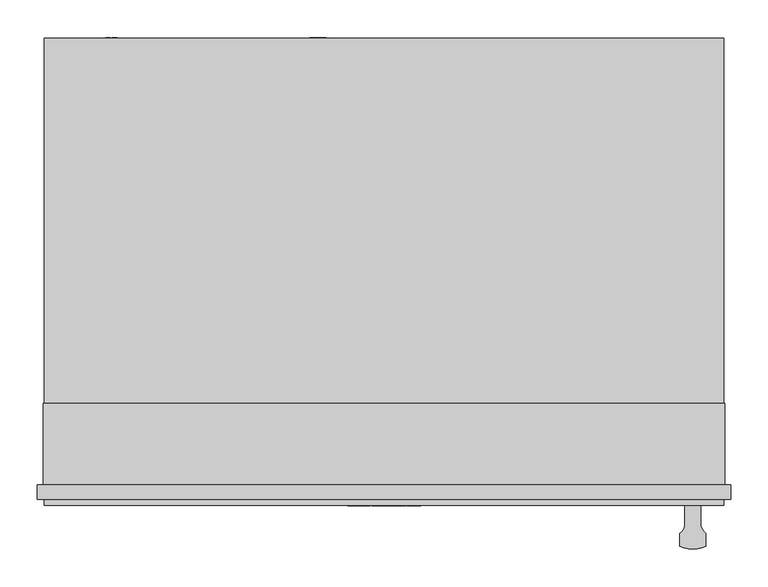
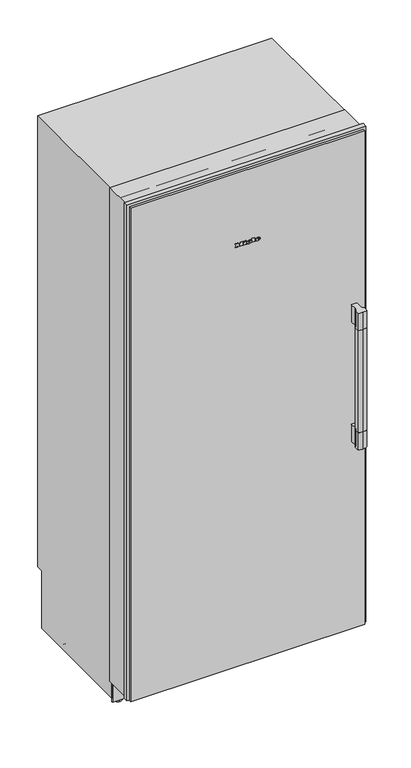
"""IFC4 building model written with IfcOpenShell, lengths in millimetres: proxy geometry, 11503410_USA_F2912SF : 37291211_USA_11503410_F2912SF."""

from ifc_helpers import new_model, si_unit, point, frame, frame_2d, origin, place, context, project, spatial, polyline, circle_curve, ellipse_curve, trimmed, segment, composite_curve, outline, extrude, faceted_brep, source, transform, mapped, element, save
from ifc_brep_helpers import plane_surface, cylinder_surface, revolved_surface, extruded_surface, advanced_brep


def specialty_equipment_59125f97(model_context):
    return source(origin(), model_context, "Body", "SolidModel", [
        extrude(outline(polyline([(-443.0, 68.0), (443.0, 68.0), (443.0, 21.0), (-443.0, 21.0), (-443.0, 68.0)])), frame((0.0, 0.0, 265.0), z_axis=(0.0, 0.0, 1.0), x_axis=(1.0, 0.0, 0.0)), (0.0, 0.0, 1.0), 1771.0),
        extrude(outline(polyline([(-289.0, 50.0), (289.0, 50.0), (289.0, 21.0), (-289.0, 21.0), (-289.0, 50.0)])), frame((0.0, 0.0, 2036.0), z_axis=(0.0, 0.0, 1.0), x_axis=(1.0, 0.0, 0.0)), (0.0, 0.0, 1.0), 56.0),
        extrude(outline(polyline([(265.0, 21.0), (265.0, 0.0), (265.0, -21.0), (224.0, -21.0), (224.0, -6.5), (99.0, -6.5), (99.0, 0.0), (99.0, 6.5), (224.0, 6.5), (224.0, 21.0), (265.0, 21.0)])), frame((0.0, 21.0, 0.0), z_axis=(0.0, 1.0, 0.0), x_axis=(0.0, 0.0, 1.0)), (0.0, 0.0, 1.0), 54.0),
        extrude(outline(composite_curve([segment(trimmed(circle_curve(frame_2d((386.9285714, -24.4390599)), 15.5714286), [point((395.5, -37.4390599))], [point((402.5, -24.4390599))], True, "CARTESIAN"), True, "CONTINUOUS"), segment(polyline([(402.5, -24.4390599), (402.5, 0.0), (423.5, 0.0), (423.5, -24.4390599)]), True, "CONTINUOUS"), segment(trimmed(circle_curve(frame_2d((439.0714286, -24.4390599)), 15.5714286), [point((423.5, -24.4390599))], [point((430.5, -37.4390599))], True, "CARTESIAN"), True, "CONTINUOUS"), segment(polyline([(430.5, -37.4390599), (430.5, -55.0)]), True, "CONTINUOUS"), segment(trimmed(circle_curve(frame_2d((413.0, -18.71875)), 40.28125), [point((430.5, -55.0))], [point((413.0, -59.0))], False, "CARTESIAN"), True, "CONTINUOUS"), segment(trimmed(circle_curve(frame_2d((413.0, -18.71875)), 40.28125), [point((413.0, -59.0))], [point((395.5, -55.0))], False, "CARTESIAN"), True, "CONTINUOUS"), segment(polyline([(395.5, -55.0), (395.5, -37.4390599)]), True, "CONTINUOUS")], self_intersect=False)), frame((0.0, 0.0, 858.0), z_axis=(0.0, 0.0, 1.0), x_axis=(1.0, 0.0, 0.0)), (0.0, 0.0, 1.0), 70.0),
        extrude(outline(composite_curve([segment(trimmed(circle_curve(frame_2d((386.9285714, -24.4390599)), 15.5714286), [point((395.5, -37.4390599))], [point((402.5, -24.4390599))], True, "CARTESIAN"), True, "CONTINUOUS"), segment(polyline([(402.5, -24.4390599), (402.5, 0.0), (423.5, 0.0), (423.5, -24.4390599)]), True, "CONTINUOUS"), segment(trimmed(circle_curve(frame_2d((439.0714286, -24.4390599)), 15.5714286), [point((423.5, -24.4390599))], [point((430.5, -37.4390599))], True, "CARTESIAN"), True, "CONTINUOUS"), segment(polyline([(430.5, -37.4390599), (430.5, -55.0)]), True, "CONTINUOUS"), segment(trimmed(circle_curve(frame_2d((413.0, -18.71875)), 40.28125), [point((430.5, -55.0))], [point((413.0, -59.0))], False, "CARTESIAN"), True, "CONTINUOUS"), segment(trimmed(circle_curve(frame_2d((413.0, -18.71875)), 40.28125), [point((413.0, -59.0))], [point((395.5, -55.0))], False, "CARTESIAN"), True, "CONTINUOUS"), segment(polyline([(395.5, -55.0), (395.5, -37.4390599)]), True, "CONTINUOUS")], self_intersect=False)), frame((0.0, 0.0, 1348.0), z_axis=(0.0, 0.0, 1.0), x_axis=(1.0, 0.0, 0.0)), (0.0, 0.0, 1.0), 70.0),
        extrude(outline(composite_curve([segment(trimmed(circle_curve(frame_2d((386.9285714, -24.4390599)), 15.5714286), [point((395.5, -37.4390599))], [point((397.3599688, -36.0))], True, "CARTESIAN"), True, "CONTINUOUS"), segment(polyline([(397.3599688, -36.0), (428.6400312, -36.0)]), True, "CONTINUOUS"), segment(trimmed(circle_curve(frame_2d((439.0714286, -24.4390599)), 15.5714286), [point((428.6400312, -36.0))], [point((430.5, -37.4390599))], True, "CARTESIAN"), True, "CONTINUOUS"), segment(polyline([(430.5, -37.4390599), (430.5, -55.0)]), True, "CONTINUOUS"), segment(trimmed(circle_curve(frame_2d((413.0, -18.71875)), 40.28125), [point((430.5, -55.0))], [point((413.0, -59.0))], False, "CARTESIAN"), True, "CONTINUOUS"), segment(trimmed(circle_curve(frame_2d((413.0, -18.71875)), 40.28125), [point((413.0, -59.0))], [point((395.5, -55.0))], False, "CARTESIAN"), True, "CONTINUOUS"), segment(polyline([(395.5, -55.0), (395.5, -37.4390599)]), True, "CONTINUOUS")], self_intersect=False)), frame((0.0, 0.0, 928.0), z_axis=(0.0, 0.0, 1.0), x_axis=(1.0, 0.0, 0.0)), (0.0, 0.0, 1.0), 420.0),
        extrude(outline(polyline([(-454.0, 21.0), (454.0, 21.0), (454.0, 0.0), (-454.0, 0.0), (-454.0, 21.0)])), frame((0.0, 0.0, 90.0), z_axis=(0.0, 0.0, 1.0), x_axis=(1.0, 0.0, 0.0)), (0.0, 0.0, 1.0), 2023.0),
        advanced_brep(
        [(38.22, -1.0, 1812.792), (38.22, -1.0, 1814.408), (48.924, -1.0, 1814.408), (30.3, -1.0, 1814.408), (34.7, -1.0, 1809.0), (48.652, -1.0, 1812.792), (43.82, -1.0, 1812.792), (40.012, -1.0, 1811.0), (38.22, -1.0, 1816.456), (38.22, -1.0, 1818.2), (40.956, -1.0, 1818.2), (40.956, -1.0, 1816.456), (38.22, 0.0, 1812.792), (40.012, 0.0, 1811.0), (43.82, 0.0, 1812.792), (48.652, 0.0, 1812.792), (34.7, 0.0, 1809.0), (30.3, 0.0, 1814.408), (48.924, 0.0, 1814.408), (38.22, 0.0, 1814.408), (38.22, 0.0, 1816.456), (40.956, 0.0, 1816.456), (40.956, 0.0, 1818.2), (38.22, 0.0, 1818.2)],
        [
            (0, 1),
            (1, 2),
            (2, 3, ellipse_curve(frame((39.612, -1.0, 1814.408), z_axis=(0.0, -1.0, 0.0), x_axis=(-1.0, 0.0, 0.0)), 9.312, 7.696)),
            (3, 4, circle_curve(frame((36.4920873, -1.0, 1814.952), z_axis=(0.0, -1.0, 0.0), x_axis=(0.0, 0.0, -1.0)), 6.2159376)),
            (4, 5, circle_curve(frame((39.4255872, -1.0, 1819.176), z_axis=(0.0, -1.0, 0.0), x_axis=(0.0, 0.0, -1.0)), 11.2197215)),
            (5, 6),
            (6, 7, circle_curve(frame((40.7941176, -1.0, 1814.28), z_axis=(0.0, 1.0, 0.0), x_axis=(0.0, 0.0, -1.0)), 3.3719591)),
            (7, 0, circle_curve(frame((40.012, -1.0, 1812.792), z_axis=(0.0, 1.0, 0.0), x_axis=(0.0, 0.0, -1.0)), 1.792)),
            (8, 9),
            (9, 10, circle_curve(frame((39.588, -1.0, 1818.2), z_axis=(0.0, 1.0, 0.0), x_axis=(0.0, 0.0, -1.0)), 1.368)),
            (10, 11),
            (11, 8),
            (12, 13, circle_curve(frame((40.012, 0.0, 1812.792), z_axis=(0.0, -1.0, 0.0), x_axis=(0.0, 0.0, -1.0)), 1.792)),
            (13, 14, circle_curve(frame((40.7941176, 0.0, 1814.28), z_axis=(0.0, -1.0, 0.0), x_axis=(0.0, 0.0, -1.0)), 3.3719591)),
            (14, 15),
            (15, 16, circle_curve(frame((39.4255872, 0.0, 1819.176), z_axis=(0.0, 1.0, 0.0), x_axis=(0.0, 0.0, -1.0)), 11.2197215)),
            (16, 17, circle_curve(frame((36.4920873, 0.0, 1814.952), z_axis=(0.0, 1.0, 0.0), x_axis=(0.0, 0.0, -1.0)), 6.2159376)),
            (17, 18, ellipse_curve(frame((39.612, 0.0, 1814.408), z_axis=(0.0, 1.0, 0.0), x_axis=(-1.0, 0.0, 0.0)), 9.312, 7.696)),
            (18, 19),
            (19, 12),
            (20, 21),
            (21, 22),
            (22, 23, circle_curve(frame((39.588, 0.0, 1818.2), z_axis=(0.0, -1.0, 0.0), x_axis=(0.0, 0.0, -1.0)), 1.368)),
            (23, 20),
            (0, 12),
            (19, 1),
            (18, 2),
            (5, 15),
            (14, 6),
            (17, 3),
            (13, 7),
            (16, 4),
            (8, 20),
            (23, 9),
            (22, 10),
            (21, 11),
        ],
        [
            plane_surface(frame((38.22, -1.0, 1814.408), z_axis=(0.0, -1.0, 0.0), x_axis=(0.0, 0.0, 1.0))),
            plane_surface(frame((38.22, 0.0, 1814.408), z_axis=(0.0, 1.0, 0.0), x_axis=(0.0, 0.0, -1.0))),
            plane_surface(frame((38.22, -1.0, 1812.792), z_axis=(1.0, 0.0, 0.0), x_axis=(0.0, 1.0, 0.0))),
            plane_surface(frame((38.22, -1.0, 1814.408), z_axis=(0.0, 0.0, -1.0), x_axis=(0.0, 1.0, 0.0))),
            plane_surface(frame((48.652, -1.0, 1812.792), z_axis=(0.0, 0.0, 1.0), x_axis=(0.0, 1.0, 0.0))),
            extruded_surface(trimmed(ellipse_curve(frame((39.612, 1.0, 1814.408), z_axis=(0.0, -1.0, 0.0), x_axis=(-1.0, 0.0, 0.0)), 9.312, 7.696), [point((48.924, 1.0, 1814.408))], [point((30.3, 1.0, 1814.408))], True, "CARTESIAN"), (0.0, -1.0, 0.0), 1.0),
            revolved_surface(polyline([(40.7941176, 0.0, 1810.9080409), (40.7941176, -1.0, 1810.9080409)]), (40.7941176, 0.0, 1814.28), (0.0, 1.0, 0.0)),
            revolved_surface(polyline([(40.012, 0.0, 1811.0), (40.012, -1.0, 1811.0)]), (40.012, 0.0, 1812.792), (0.0, 1.0, 0.0)),
            cylinder_surface(frame((36.4920873, 0.0, 1814.952), z_axis=(0.0, -1.0, 0.0), x_axis=(0.0, 0.0, -1.0)), 6.2159376),
            cylinder_surface(frame((39.4255872, 0.0, 1819.176), z_axis=(0.0, -1.0, 0.0), x_axis=(0.0, 0.0, -1.0)), 11.2197215),
            plane_surface(frame((38.22, -1.0, 1816.456), z_axis=(1.0, 0.0, 0.0), x_axis=(0.0, 1.0, 0.0))),
            revolved_surface(polyline([(39.588, 0.0, 1816.832), (39.588, -1.0, 1816.832)]), (39.588, 0.0, 1818.2), (0.0, 1.0, 0.0)),
            plane_surface(frame((40.956, -1.0, 1818.2), z_axis=(-1.0, 0.0, 0.0), x_axis=(0.0, 1.0, 0.0))),
            plane_surface(frame((40.956, -1.0, 1816.456), z_axis=(0.0, 0.0, 1.0), x_axis=(0.0, 1.0, 0.0))),
        ],
        [
            (0, [[1, 2, 3, 4, 5, 6, 7, 8], [9, 10, 11, 12]]),
            (1, [[13, 14, 15, 16, 17, 18, 19, 20], [21, 22, 23, 24]]),
            (2, [[-1, 25, -20, 26]]),
            (3, [[-2, -26, -19, 27]]),
            (4, [[-6, 28, -15, 29]]),
            (5, [[-3, -27, -18, 30]]),
            (6, [[-7, -29, -14, 31]]),
            (7, [[-8, -31, -13, -25]]),
            (8, [[-4, -30, -17, 32]]),
            (9, [[-5, -32, -16, -28]]),
            (10, [[-9, 33, -24, 34]]),
            (11, [[-10, -34, -23, 35]]),
            (12, [[-11, -35, -22, 36]]),
            (13, [[-12, -36, -21, -33]]),
        ],
    ),
        advanced_brep(
        [(4.828, -1.0, 1812.792), (4.828, -1.0, 1814.408), (15.532, -1.0, 1814.408), (-3.092, -1.0, 1814.408), (1.308, -1.0, 1809.0), (15.26, -1.0, 1812.792), (10.428, -1.0, 1812.792), (6.62, -1.0, 1811.0), (4.828, -1.0, 1816.456), (4.828, -1.0, 1818.2), (7.564, -1.0, 1818.2), (7.564, -1.0, 1816.456), (4.828, 0.0, 1812.792), (6.62, 0.0, 1811.0), (10.428, 0.0, 1812.792), (15.26, 0.0, 1812.792), (1.308, 0.0, 1809.0), (-3.092, 0.0, 1814.408), (15.532, 0.0, 1814.408), (4.828, 0.0, 1814.408), (4.828, 0.0, 1816.456), (7.564, 0.0, 1816.456), (7.564, 0.0, 1818.2), (4.828, 0.0, 1818.2)],
        [
            (0, 1),
            (1, 2),
            (2, 3, ellipse_curve(frame((6.22, -1.0, 1814.408), z_axis=(0.0, -1.0, 0.0), x_axis=(-1.0, 0.0, 0.0)), 9.312, 7.696)),
            (3, 4, circle_curve(frame((3.1000873, -1.0, 1814.952), z_axis=(0.0, -1.0, 0.0), x_axis=(0.0, 0.0, -1.0)), 6.2159376)),
            (4, 5, circle_curve(frame((6.0335872, -1.0, 1819.176), z_axis=(0.0, -1.0, 0.0), x_axis=(0.0, 0.0, -1.0)), 11.2197215)),
            (5, 6),
            (6, 7, circle_curve(frame((7.4021176, -1.0, 1814.28), z_axis=(0.0, 1.0, 0.0), x_axis=(0.0, 0.0, -1.0)), 3.3719591)),
            (7, 0, circle_curve(frame((6.62, -1.0, 1812.792), z_axis=(0.0, 1.0, 0.0), x_axis=(0.0, 0.0, -1.0)), 1.792)),
            (8, 9),
            (9, 10, circle_curve(frame((6.196, -1.0, 1818.2), z_axis=(0.0, 1.0, 0.0), x_axis=(0.0, 0.0, -1.0)), 1.368)),
            (10, 11),
            (11, 8),
            (12, 13, circle_curve(frame((6.62, 0.0, 1812.792), z_axis=(0.0, -1.0, 0.0), x_axis=(0.0, 0.0, -1.0)), 1.792)),
            (13, 14, circle_curve(frame((7.4021176, 0.0, 1814.28), z_axis=(0.0, -1.0, 0.0), x_axis=(0.0, 0.0, -1.0)), 3.3719591)),
            (14, 15),
            (15, 16, circle_curve(frame((6.0335872, 0.0, 1819.176), z_axis=(0.0, 1.0, 0.0), x_axis=(0.0, 0.0, -1.0)), 11.2197215)),
            (16, 17, circle_curve(frame((3.1000873, 0.0, 1814.952), z_axis=(0.0, 1.0, 0.0), x_axis=(0.0, 0.0, -1.0)), 6.2159376)),
            (17, 18, ellipse_curve(frame((6.22, 0.0, 1814.408), z_axis=(0.0, 1.0, 0.0), x_axis=(-1.0, 0.0, 0.0)), 9.312, 7.696)),
            (18, 19),
            (19, 12),
            (20, 21),
            (21, 22),
            (22, 23, circle_curve(frame((6.196, 0.0, 1818.2), z_axis=(0.0, -1.0, 0.0), x_axis=(0.0, 0.0, -1.0)), 1.368)),
            (23, 20),
            (0, 12),
            (19, 1),
            (18, 2),
            (5, 15),
            (14, 6),
            (17, 3),
            (13, 7),
            (16, 4),
            (8, 20),
            (23, 9),
            (22, 10),
            (21, 11),
        ],
        [
            plane_surface(frame((4.828, -1.0, 1814.408), z_axis=(0.0, -1.0, 0.0), x_axis=(0.0, 0.0, 1.0))),
            plane_surface(frame((4.828, 0.0, 1814.408), z_axis=(0.0, 1.0, 0.0), x_axis=(0.0, 0.0, -1.0))),
            plane_surface(frame((4.828, -1.0, 1812.792), z_axis=(1.0, 0.0, 0.0), x_axis=(0.0, 1.0, 0.0))),
            plane_surface(frame((4.828, -1.0, 1814.408), z_axis=(0.0, 0.0, -1.0), x_axis=(0.0, 1.0, 0.0))),
            plane_surface(frame((15.26, -1.0, 1812.792), z_axis=(0.0, 0.0, 1.0), x_axis=(0.0, 1.0, 0.0))),
            extruded_surface(trimmed(ellipse_curve(frame((6.22, 1.0, 1814.408), z_axis=(0.0, -1.0, 0.0), x_axis=(-1.0, 0.0, 0.0)), 9.312, 7.696), [point((15.532, 1.0, 1814.408))], [point((-3.092, 1.0, 1814.408))], True, "CARTESIAN"), (0.0, -1.0, 0.0), 1.0),
            revolved_surface(polyline([(7.4021176, 0.0, 1810.9080409), (7.4021176, -1.0, 1810.9080409)]), (7.4021176, 0.0, 1814.28), (0.0, 1.0, 0.0)),
            revolved_surface(polyline([(6.62, 0.0, 1811.0), (6.62, -1.0, 1811.0)]), (6.62, 0.0, 1812.792), (0.0, 1.0, 0.0)),
            cylinder_surface(frame((3.1000873, 0.0, 1814.952), z_axis=(0.0, -1.0, 0.0), x_axis=(0.0, 0.0, -1.0)), 6.2159376),
            cylinder_surface(frame((6.0335872, 0.0, 1819.176), z_axis=(0.0, -1.0, 0.0), x_axis=(0.0, 0.0, -1.0)), 11.2197215),
            plane_surface(frame((4.828, -1.0, 1816.456), z_axis=(1.0, 0.0, 0.0), x_axis=(0.0, 1.0, 0.0))),
            revolved_surface(polyline([(6.196, 0.0, 1816.832), (6.196, -1.0, 1816.832)]), (6.196, 0.0, 1818.2), (0.0, 1.0, 0.0)),
            plane_surface(frame((7.564, -1.0, 1818.2), z_axis=(-1.0, 0.0, 0.0), x_axis=(0.0, 1.0, 0.0))),
            plane_surface(frame((7.564, -1.0, 1816.456), z_axis=(0.0, 0.0, 1.0), x_axis=(0.0, 1.0, 0.0))),
        ],
        [
            (0, [[1, 2, 3, 4, 5, 6, 7, 8], [9, 10, 11, 12]]),
            (1, [[13, 14, 15, 16, 17, 18, 19, 20], [21, 22, 23, 24]]),
            (2, [[-1, 25, -20, 26]]),
            (3, [[-2, -26, -19, 27]]),
            (4, [[-6, 28, -15, 29]]),
            (5, [[-3, -27, -18, 30]]),
            (6, [[-7, -29, -14, 31]]),
            (7, [[-8, -31, -13, -25]]),
            (8, [[-4, -30, -17, 32]]),
            (9, [[-5, -32, -16, -28]]),
            (10, [[-9, 33, -24, 34]]),
            (11, [[-10, -34, -23, 35]]),
            (12, [[-11, -35, -22, 36]]),
            (13, [[-12, -36, -21, -33]]),
        ],
    ),
        extrude(outline(polyline([(1824.056, -12.66), (1821.464, -11.444), (1823.992, -6.02), (1826.584, -7.22), (1824.056, -12.66)])), frame((0.0, -1.0, 0.0), z_axis=(0.0, 1.0, 0.0), x_axis=(0.0, 0.0, 1.0)), (0.0, 0.0, 1.0), 1.0),
        extrude(outline(polyline([(1821.112, -16.612), (1818.248, -16.612), (1818.248, -14.708), (1811.688, -14.708), (1811.688, -16.612), (1809.0, -16.612), (1809.0, -3.988), (1811.688, -3.988), (1811.688, -5.844), (1821.112, -5.844), (1821.112, -16.612)])), frame((0.0, -1.0, 0.0), z_axis=(0.0, 1.0, 0.0), x_axis=(0.0, 0.0, 1.0)), (0.0, 0.0, 1.0), 1.0),
        extrude(outline(polyline([(1822.392, 16.428), (1822.392, 18.348), (1811.688, 18.348), (1811.688, 16.428), (1809.0, 16.428), (1809.0, 29.404), (1811.688, 29.404), (1811.688, 27.436), (1825.0, 27.436), (1825.0, 16.428), (1822.392, 16.428)])), frame((0.0, -1.0, 0.0), z_axis=(0.0, 1.0, 0.0), x_axis=(0.0, 0.0, 1.0)), (0.0, 0.0, 1.0), 1.0),
        extrude(outline(polyline([(1822.392, -48.5), (1822.392, -46.564), (1811.688, -46.564), (1811.688, -48.5), (1809.0, -48.5), (1809.0, -41.46), (1811.688, -41.46), (1811.688, -43.38), (1818.4431247, -43.38), (1809.0, -36.228), (1818.8152223, -29.044), (1811.688, -29.044), (1811.688, -31.012), (1809.0, -31.012), (1809.0, -18.244), (1811.688, -18.244), (1811.688, -20.276), (1822.392, -20.276), (1822.392, -18.244), (1825.0, -18.244), (1825.0, -27.988), (1819.0, -32.66), (1825.0, -37.348), (1825.0, -48.5), (1822.392, -48.5)])), frame((0.0, -1.0, 0.0), z_axis=(0.0, 1.0, 0.0), x_axis=(0.0, 0.0, 1.0)), (0.0, 0.0, 1.0), 1.0),
        extrude(outline(polyline([(540.0, 1998.0), (540.0, 1791.0), (471.0, 1791.0), (443.0, 1867.0), (222.7448904, 1867.0), (178.0, 1939.0), (108.0, 1949.0), (108.0, 1998.0), (540.0, 1998.0)])), frame((-408.0, 0.0, 0.0), z_axis=(1.0, 0.0, 0.0), x_axis=(0.0, 1.0, 0.0)), (0.0, 0.0, 1.0), 816.0),
        extrude(outline(polyline([(217.9886114, 1875.0), (216.809433, 1875.0), (179.6921935, 1934.4), (180.8713719, 1934.4), (217.9886114, 1875.0)])), frame((-69.0, 0.0, 0.0), z_axis=(1.0, 0.0, 0.0), x_axis=(0.0, 1.0, 0.0)), (0.0, 0.0, 1.0), 138.0),
        extrude(outline(polyline([(46.0510837, -87.101717), (37.4134902, -89.1745179), (46.0453554, -91.6868463), (46.0453554, -93.5601414), (37.4089549, -96.0799633), (46.0493903, -98.1581876), (46.0493903, -99.4649805), (36.0005458, -96.7156324), (36.0005458, -95.372208), (44.8261022, -92.6342221), (35.9987467, -90.0620509), (35.9987287, -88.5451466), (46.0510837, -85.800191), (46.0510837, -87.101717)])), frame((0.0, 625.0, 0.0), z_axis=(0.0, 1.0, 0.0), x_axis=(0.0, 0.0, 1.0)), (0.0, 0.0, 1.0), 1.0),
        extrude(outline(polyline([(46.0485238, -78.7401503), (41.1363122, -78.7401503), (46.0468162, -83.884602), (46.0468162, -85.6328316), (41.9156889, -81.3260313), (36.000035, -85.8032231), (36.000035, -84.2795519), (41.0742849, -80.4391666), (39.4525334, -78.7395503), (35.9999292, -78.7395503), (35.9999292, -77.4795491), (46.0485238, -77.4795491), (46.0485238, -78.7401503)])), frame((0.0, 625.0, 0.0), z_axis=(0.0, 1.0, 0.0), x_axis=(0.0, 0.0, 1.0)), (0.0, 0.0, 1.0), 1.0),
        extrude(outline(composite_curve([segment(trimmed(circle_curve(frame_2d((41.0, -88.0)), 7.5), [point((33.5, -88.0))], [point((48.5, -88.0))], False, "CARTESIAN"), True, "CONTINUOUS"), segment(trimmed(circle_curve(frame_2d((41.0, -88.0)), 7.5), [point((48.5, -88.0))], [point((33.5, -88.0))], False, "CARTESIAN"), True, "CONTINUOUS")], self_intersect=False)), frame((0.0, 598.0, 0.0), z_axis=(0.0, 1.0, 0.0), x_axis=(0.0, 0.0, 1.0)), (0.0, 0.0, 1.0), 27.0),
        extrude(outline(polyline([(2095.0, -447.5), (2047.0, -447.5), (2047.0, -413.5), (2036.5, -413.5), (2036.5, -298.5), (2047.0, -298.5), (2047.0, -292.5), (2095.0, -292.5), (2095.0, -447.5)])), frame((0.0, 21.0, 0.0), z_axis=(0.0, 1.0, 0.0), x_axis=(0.0, 0.0, 1.0)), (0.0, 0.0, 1.0), 47.0),
        extrude(outline(polyline([(254.0, -447.5), (206.0, -447.5), (206.0, -292.5), (254.0, -292.5), (254.0, -298.5), (264.0, -298.5), (264.0, -413.5), (254.0, -413.5), (254.0, -447.5)])), frame((0.0, 21.0, 0.0), z_axis=(0.0, 1.0, 0.0), x_axis=(0.0, 0.0, 1.0)), (0.0, 0.0, 1.0), 54.0),
        extrude(outline(polyline([(99.0373308, -363.7645771), (97.7615342, -363.7645771), (97.7615342, -357.8195541), (94.7968516, -357.8195541), (94.7968516, -363.469579), (93.5246295, -363.469579), (93.5246295, -357.8415693), (90.2570046, -357.8415693), (90.2570046, -363.9619689), (88.9546219, -363.9619689), (88.9546219, -356.5443524), (99.0373308, -356.5443524), (99.0373308, -363.7645771)])), frame((0.0, 625.0, 0.0), z_axis=(0.0, 1.0, 0.0), x_axis=(0.0, 0.0, 1.0)), (0.0, 0.0, 1.0), 1.0),
        extrude(outline(polyline([(99.0458, -367.0619704), (90.2663944, -367.0619704), (90.2663944, -372.1145879), (89.0134802, -372.1145879), (89.0134802, -365.8423809), (99.0458, -365.8423809), (99.0458, -367.0619704)])), frame((0.0, 625.0, 0.0), z_axis=(0.0, 1.0, 0.0), x_axis=(0.0, 0.0, 1.0)), (0.0, 0.0, 1.0), 1.0),
        extrude(outline(composite_curve([segment(trimmed(circle_curve(frame_2d((94.0, -364.0)), 7.5), [point((86.5, -364.0))], [point((101.5, -364.0))], False, "CARTESIAN"), True, "CONTINUOUS"), segment(trimmed(circle_curve(frame_2d((94.0, -364.0)), 7.5), [point((101.5, -364.0))], [point((86.5, -364.0))], False, "CARTESIAN"), True, "CONTINUOUS")], self_intersect=False)), frame((0.0, 598.0, 0.0), z_axis=(0.0, 1.0, 0.0), x_axis=(0.0, 0.0, 1.0)), (0.0, 0.0, 1.0), 27.0),
        extrude(outline(polyline([(-454.0, 125.0), (454.0, 125.0), (454.0, 120.0), (-454.0, 120.0), (-454.0, 125.0)])), frame((0.0, 0.0, 14.0), z_axis=(0.0, 0.0, 1.0), x_axis=(1.0, 0.0, 0.0)), (0.0, 0.0, 1.0), 83.0),
        advanced_brep(
        [(-420.0, 160.0, 0.0), (-420.0, 130.0, 0.0), (-420.0, 160.0, 7.0), (-420.0, 130.0, 7.0), (-420.0, 149.7, 7.0), (-420.0, 140.3, 7.0), (-420.0, 149.7, 28.0), (-420.0, 140.3, 28.0)],
        [
            (0, 1, circle_curve(frame((-420.0, 145.0, 0.0), z_axis=(0.0, 0.0, -1.0), x_axis=(1.0, 0.0, 0.0)), 15.0)),
            (1, 0, circle_curve(frame((-420.0, 145.0, 0.0), z_axis=(0.0, 0.0, -1.0), x_axis=(1.0, 0.0, 0.0)), 15.0)),
            (2, 3, circle_curve(frame((-420.0, 145.0, 7.0), z_axis=(0.0, 0.0, 1.0), x_axis=(1.0, 0.0, 0.0)), 15.0)),
            (3, 2, circle_curve(frame((-420.0, 145.0, 7.0), z_axis=(0.0, 0.0, 1.0), x_axis=(1.0, 0.0, 0.0)), 15.0)),
            (4, 5, circle_curve(frame((-420.0, 145.0, 7.0), z_axis=(0.0, 0.0, -1.0), x_axis=(0.0, -1.0, 0.0)), 4.7)),
            (5, 4, circle_curve(frame((-420.0, 145.0, 7.0), z_axis=(0.0, 0.0, -1.0), x_axis=(0.0, -1.0, 0.0)), 4.7)),
            (0, 2),
            (3, 1),
            (6, 7, circle_curve(frame((-420.0, 145.0, 28.0), z_axis=(0.0, 0.0, 1.0), x_axis=(0.0, -1.0, 0.0)), 4.7)),
            (7, 6, circle_curve(frame((-420.0, 145.0, 28.0), z_axis=(0.0, 0.0, 1.0), x_axis=(0.0, -1.0, 0.0)), 4.7)),
            (7, 5),
            (4, 6),
        ],
        [
            plane_surface(frame((-405.0, 145.0, 0.0), z_axis=(0.0, 0.0, -1.0), x_axis=(0.0, -1.0, 0.0))),
            plane_surface(frame((-405.0, 145.0, 7.0), z_axis=(0.0, 0.0, 1.0), x_axis=(0.0, 1.0, 0.0))),
            cylinder_surface(frame((-420.0, 145.0, 7.0), z_axis=(0.0, 0.0, -1.0), x_axis=(1.0, 0.0, 0.0)), 15.0),
            plane_surface(frame((-420.0, 140.3, 28.0), z_axis=(0.0, 0.0, 1.0), x_axis=(1.0, 0.0, 0.0))),
            cylinder_surface(frame((-420.0, 145.0, 28.0), z_axis=(0.0, 0.0, -1.0), x_axis=(0.0, -1.0, 0.0)), 4.7),
        ],
        [
            (0, [[1, 2]]),
            (1, [[3, 4], [5, 6]]),
            (2, [[-1, 7, -4, 8]]),
            (2, [[-2, -8, -3, -7]]),
            (3, [[9, 10]]),
            (4, [[-10, 11, -5, 12]]),
            (4, [[-9, -12, -6, -11]]),
        ],
    ),
        advanced_brep(
        [(420.0, 160.0, 0.0), (420.0, 130.0, 0.0), (420.0, 160.0, 7.0), (420.0, 130.0, 7.0), (420.0, 149.7, 7.0), (420.0, 140.3, 7.0), (420.0, 149.7, 28.0), (420.0, 140.3, 28.0)],
        [
            (0, 1, circle_curve(frame((420.0, 145.0, 0.0), z_axis=(0.0, 0.0, -1.0), x_axis=(1.0, 0.0, 0.0)), 15.0)),
            (1, 0, circle_curve(frame((420.0, 145.0, 0.0), z_axis=(0.0, 0.0, -1.0), x_axis=(1.0, 0.0, 0.0)), 15.0)),
            (2, 3, circle_curve(frame((420.0, 145.0, 7.0), z_axis=(0.0, 0.0, 1.0), x_axis=(1.0, 0.0, 0.0)), 15.0)),
            (3, 2, circle_curve(frame((420.0, 145.0, 7.0), z_axis=(0.0, 0.0, 1.0), x_axis=(1.0, 0.0, 0.0)), 15.0)),
            (4, 5, circle_curve(frame((420.0, 145.0, 7.0), z_axis=(0.0, 0.0, -1.0), x_axis=(0.0, -1.0, 0.0)), 4.7)),
            (5, 4, circle_curve(frame((420.0, 145.0, 7.0), z_axis=(0.0, 0.0, -1.0), x_axis=(0.0, -1.0, 0.0)), 4.7)),
            (0, 2),
            (3, 1),
            (6, 7, circle_curve(frame((420.0, 145.0, 28.0), z_axis=(0.0, 0.0, 1.0), x_axis=(0.0, -1.0, 0.0)), 4.7)),
            (7, 6, circle_curve(frame((420.0, 145.0, 28.0), z_axis=(0.0, 0.0, 1.0), x_axis=(0.0, -1.0, 0.0)), 4.7)),
            (7, 5),
            (4, 6),
        ],
        [
            plane_surface(frame((-405.0, 145.0, 0.0), z_axis=(0.0, 0.0, -1.0), x_axis=(0.0, -1.0, 0.0))),
            plane_surface(frame((-405.0, 145.0, 7.0), z_axis=(0.0, 0.0, 1.0), x_axis=(0.0, 1.0, 0.0))),
            cylinder_surface(frame((420.0, 145.0, 7.0), z_axis=(0.0, 0.0, -1.0), x_axis=(1.0, 0.0, 0.0)), 15.0),
            plane_surface(frame((-420.0, 140.3, 28.0), z_axis=(0.0, 0.0, 1.0), x_axis=(1.0, 0.0, 0.0))),
            cylinder_surface(frame((420.0, 145.0, 28.0), z_axis=(0.0, 0.0, -1.0), x_axis=(0.0, -1.0, 0.0)), 4.7),
        ],
        [
            (0, [[1, 2]]),
            (1, [[3, 4], [5, 6]]),
            (2, [[-1, 7, -4, 8]]),
            (2, [[-2, -8, -3, -7]]),
            (3, [[9, 10]]),
            (4, [[-10, 11, -5, 12]]),
            (4, [[-9, -12, -6, -11]]),
        ],
    ),
        advanced_brep(
        [(454.0, 68.0, 2114.0), (454.0, 68.0, 267.0), (454.0, 75.0, 267.0), (454.0, 75.0, 97.0), (454.0, 125.0, 97.0), (454.0, 125.0, 28.0), (454.0, 598.0, 28.0), (454.0, 598.0, 263.0), (454.0, 625.0, 263.0), (454.0, 625.0, 2114.0), (-454.0, 68.0, 2114.0), (-454.0, 625.0, 2114.0), (-454.0, 625.0, 263.0), (-454.0, 598.0, 263.0), (-454.0, 598.0, 28.0), (-454.0, 125.0, 28.0), (-454.0, 125.0, 97.0), (-454.0, 75.0, 97.0), (-454.0, 75.0, 267.0), (-454.0, 68.0, 267.0), (394.0, 598.0, 28.0), (394.0, 598.0, 14.0), (-394.0, 598.0, 14.0), (-394.0, 598.0, 28.0), (394.0, 125.0, 14.0), (-394.0, 125.0, 14.0), (-394.0, 125.0, 28.0), (394.0, 125.0, 28.0), (408.0, 68.0, 1998.0), (408.0, 68.0, 343.0), (-408.0, 68.0, 343.0), (-408.0, 68.0, 1998.0), (408.0, 540.0, 1998.0), (-408.0, 540.0, 1998.0), (-408.0, 540.0, 343.0), (408.0, 540.0, 343.0), (-412.5, 223.8193473, 28.0), (-431.5, 223.8193473, 28.0), (-431.5, 174.1806527, 28.0), (-412.5, 174.1806527, 28.0), (-432.0, 546.8193473, 28.0), (-432.0, 497.1806527, 28.0), (-416.0, 497.1806527, 28.0), (-416.0, 546.8193473, 28.0), (431.5, 174.1806527, 28.0), (431.5, 223.8193473, 28.0), (412.5, 223.8193473, 28.0), (412.5, 174.1806527, 28.0), (416.0, 546.8193473, 28.0), (416.0, 497.1806527, 28.0), (432.0, 497.1806527, 28.0), (432.0, 546.8193473, 28.0), (-412.5, 224.0, 25.0), (-412.5, 174.0, 25.0), (-431.5, 174.0, 25.0), (-431.5, 224.0, 25.0), (-412.5, 199.0, 25.0), (-431.5, 199.0, 25.0), (431.5, 199.0, 25.0), (431.5, 174.0, 25.0), (431.5, 224.0, 25.0), (412.5, 224.0, 25.0), (412.5, 174.0, 25.0), (412.5, 199.0, 25.0), (-432.0, 547.0, 25.0), (-432.0, 497.0, 25.0), (-432.0, 522.0, 25.0), (-416.0, 547.0, 25.0), (-416.0, 497.0, 25.0), (-416.0, 522.0, 25.0), (416.0, 547.0, 25.0), (416.0, 497.0, 25.0), (416.0, 522.0, 25.0), (432.0, 547.0, 25.0), (432.0, 497.0, 25.0), (432.0, 522.0, 25.0)],
        [
            (0, 1),
            (1, 2),
            (2, 3),
            (3, 4),
            (4, 5),
            (5, 6),
            (6, 7),
            (7, 8),
            (8, 9),
            (9, 0),
            (10, 11),
            (11, 12),
            (12, 13),
            (13, 14),
            (14, 15),
            (15, 16),
            (16, 17),
            (17, 18),
            (18, 19),
            (19, 10),
            (9, 11),
            (10, 0),
            (8, 12),
            (7, 13),
            (6, 20),
            (20, 21),
            (21, 22),
            (22, 23),
            (23, 14),
            (21, 24),
            (24, 25),
            (25, 22),
            (4, 16),
            (15, 26),
            (26, 25),
            (24, 27),
            (27, 5),
            (3, 17),
            (2, 18),
            (1, 19),
            (28, 29),
            (29, 30),
            (30, 31),
            (31, 28),
            (32, 33),
            (33, 34),
            (34, 35),
            (35, 32),
            (35, 29),
            (28, 32),
            (34, 30),
            (33, 31),
            (23, 26),
            (36, 37),
            (37, 38),
            (38, 39),
            (39, 36),
            (40, 41),
            (41, 42),
            (42, 43),
            (43, 40),
            (27, 20),
            (44, 45),
            (45, 46),
            (46, 47),
            (47, 44),
            (48, 49),
            (49, 50),
            (50, 51),
            (51, 48),
            (52, 53, circle_curve(frame((-412.5, 199.0, 25.0), z_axis=(-1.0, 0.0, 0.0), x_axis=(0.0, -1.0, 0.0)), 25.0)),
            (53, 54),
            (54, 55, circle_curve(frame((-431.5, 199.0, 25.0), z_axis=(1.0, 0.0, 0.0), x_axis=(0.0, -1.0, 0.0)), 25.0)),
            (55, 52),
            (53, 39, circle_curve(frame((-412.5, 199.0, 25.0), z_axis=(-1.0, 0.0, 0.0), x_axis=(0.0, -1.0, 0.0)), 25.0)),
            (38, 54, circle_curve(frame((-431.5, 199.0, 25.0), z_axis=(1.0, 0.0, 0.0), x_axis=(0.0, -1.0, 0.0)), 25.0)),
            (55, 37, circle_curve(frame((-431.5, 199.0, 25.0), z_axis=(1.0, 0.0, 0.0), x_axis=(0.0, -1.0, 0.0)), 25.0)),
            (36, 52, circle_curve(frame((-412.5, 199.0, 25.0), z_axis=(-1.0, 0.0, 0.0), x_axis=(0.0, -1.0, 0.0)), 25.0)),
            (52, 56),
            (56, 53),
            (54, 57),
            (57, 55),
            (58, 59),
            (59, 60, circle_curve(frame((431.5, 199.0, 25.0), z_axis=(1.0, 0.0, 0.0), x_axis=(0.0, -1.0, 0.0)), 25.0)),
            (60, 58),
            (60, 45, circle_curve(frame((431.5, 199.0, 25.0), z_axis=(1.0, 0.0, 0.0), x_axis=(0.0, -1.0, 0.0)), 25.0)),
            (44, 59, circle_curve(frame((431.5, 199.0, 25.0), z_axis=(1.0, 0.0, 0.0), x_axis=(0.0, -1.0, 0.0)), 25.0)),
            (61, 62, circle_curve(frame((412.5, 199.0, 25.0), z_axis=(-1.0, 0.0, 0.0), x_axis=(0.0, -1.0, 0.0)), 25.0)),
            (62, 63),
            (63, 61),
            (62, 47, circle_curve(frame((412.5, 199.0, 25.0), z_axis=(-1.0, 0.0, 0.0), x_axis=(0.0, -1.0, 0.0)), 25.0)),
            (46, 61, circle_curve(frame((412.5, 199.0, 25.0), z_axis=(-1.0, 0.0, 0.0), x_axis=(0.0, -1.0, 0.0)), 25.0)),
            (64, 65, circle_curve(frame((-432.0, 522.0, 25.0), z_axis=(-1.0, 0.0, 0.0), x_axis=(0.0, -1.0, 0.0)), 25.0)),
            (65, 66),
            (66, 64),
            (65, 41, circle_curve(frame((-432.0, 522.0, 25.0), z_axis=(-1.0, 0.0, 0.0), x_axis=(0.0, -1.0, 0.0)), 25.0)),
            (40, 64, circle_curve(frame((-432.0, 522.0, 25.0), z_axis=(-1.0, 0.0, 0.0), x_axis=(0.0, -1.0, 0.0)), 25.0)),
            (64, 67),
            (67, 68, circle_curve(frame((-416.0, 522.0, 25.0), z_axis=(-1.0, 0.0, 0.0), x_axis=(0.0, -1.0, 0.0)), 25.0)),
            (68, 65),
            (43, 67, circle_curve(frame((-416.0, 522.0, 25.0), z_axis=(-1.0, 0.0, 0.0), x_axis=(0.0, -1.0, 0.0)), 25.0)),
            (68, 42, circle_curve(frame((-416.0, 522.0, 25.0), z_axis=(-1.0, 0.0, 0.0), x_axis=(0.0, -1.0, 0.0)), 25.0)),
            (67, 69),
            (69, 68),
            (70, 71, circle_curve(frame((416.0, 522.0, 25.0), z_axis=(-1.0, 0.0, 0.0), x_axis=(0.0, -1.0, 0.0)), 25.0)),
            (71, 72),
            (72, 70),
            (71, 49, circle_curve(frame((416.0, 522.0, 25.0), z_axis=(-1.0, 0.0, 0.0), x_axis=(0.0, -1.0, 0.0)), 25.0)),
            (48, 70, circle_curve(frame((416.0, 522.0, 25.0), z_axis=(-1.0, 0.0, 0.0), x_axis=(0.0, -1.0, 0.0)), 25.0)),
            (70, 73),
            (73, 74, circle_curve(frame((432.0, 522.0, 25.0), z_axis=(-1.0, 0.0, 0.0), x_axis=(0.0, -1.0, 0.0)), 25.0)),
            (74, 71),
            (51, 73, circle_curve(frame((432.0, 522.0, 25.0), z_axis=(-1.0, 0.0, 0.0), x_axis=(0.0, -1.0, 0.0)), 25.0)),
            (74, 50, circle_curve(frame((432.0, 522.0, 25.0), z_axis=(-1.0, 0.0, 0.0), x_axis=(0.0, -1.0, 0.0)), 25.0)),
            (73, 75),
            (75, 74),
            (59, 62),
            (61, 60),
        ],
        [
            plane_surface(frame((454.0, 625.0, 2114.0), z_axis=(1.0, 0.0, 0.0), x_axis=(0.0, -1.0, 0.0))),
            plane_surface(frame((-454.0, 625.0, 2114.0), z_axis=(-1.0, 0.0, 0.0), x_axis=(0.0, 1.0, 0.0))),
            plane_surface(frame((-454.0, 68.0, 2114.0), z_axis=(0.0, 0.0, 1.0), x_axis=(1.0, 0.0, 0.0))),
            plane_surface(frame((-454.0, 625.0, 2114.0), z_axis=(0.0, 1.0, 0.0), x_axis=(1.0, 0.0, 0.0))),
            plane_surface(frame((-454.0, 625.0, 263.0), z_axis=(0.0, 0.0, -1.0), x_axis=(1.0, 0.0, 0.0))),
            plane_surface(frame((-454.0, 598.0, 263.0), z_axis=(0.0, 1.0, 0.0), x_axis=(1.0, 0.0, 0.0))),
            plane_surface(frame((-454.0, 598.0, 14.0), z_axis=(0.0, 0.0, -1.0), x_axis=(1.0, 0.0, 0.0))),
            plane_surface(frame((-454.0, 125.0, 14.0), z_axis=(0.0, -1.0, 0.0), x_axis=(1.0, 0.0, 0.0))),
            plane_surface(frame((-454.0, 125.0, 97.0), z_axis=(0.0, 0.0, -1.0), x_axis=(1.0, 0.0, 0.0))),
            plane_surface(frame((-454.0, 75.0, 97.0), z_axis=(0.0, -1.0, 0.0), x_axis=(1.0, 0.0, 0.0))),
            plane_surface(frame((-454.0, 75.0, 267.0), z_axis=(0.0, 0.0, -1.0), x_axis=(1.0, 0.0, 0.0))),
            plane_surface(frame((-454.0, 68.0, 267.0), z_axis=(0.0, -1.0, 0.0), x_axis=(1.0, 0.0, 0.0))),
            plane_surface(frame((408.0, 540.0, 1998.0), z_axis=(0.0, -1.0, 0.0), x_axis=(0.0, 0.0, -1.0))),
            plane_surface(frame((408.0, 540.0, 1998.0), z_axis=(-1.0, 0.0, 0.0), x_axis=(0.0, -1.0, 0.0))),
            plane_surface(frame((408.0, 540.0, 343.0), z_axis=(0.0, 0.0, 1.0), x_axis=(0.0, -1.0, 0.0))),
            plane_surface(frame((-408.0, 540.0, 343.0), z_axis=(1.0, 0.0, 0.0), x_axis=(0.0, -1.0, 0.0))),
            plane_surface(frame((-408.0, 540.0, 1998.0), z_axis=(0.0, 0.0, -1.0), x_axis=(0.0, -1.0, 0.0))),
            plane_surface(frame((-454.0, 625.0, 28.0), z_axis=(0.0, 0.0, -1.0), x_axis=(-1.0, 0.0, 0.0))),
            plane_surface(frame((-394.0, 125.0, 28.0), z_axis=(-1.0, 0.0, 0.0), x_axis=(0.0, 0.0, -1.0))),
            plane_surface(frame((394.0, 625.0, 28.0), z_axis=(1.0, 0.0, 0.0), x_axis=(0.0, 0.0, -1.0))),
            cylinder_surface(frame((-546.6988927, 199.0, 25.0), z_axis=(1.0, 0.0, 0.0), x_axis=(0.0, -1.0, 0.0)), 25.0),
            plane_surface(frame((-412.5, 199.0, 25.0), z_axis=(1.0, 0.0, 0.0), x_axis=(0.0, -1.0, 0.0))),
            plane_surface(frame((-431.5, 199.0, 25.0), z_axis=(-1.0, 0.0, 0.0), x_axis=(0.0, -1.0, 0.0))),
            plane_surface(frame((431.5, 199.0, 25.0), z_axis=(1.0, 0.0, 0.0), x_axis=(0.0, -1.0, 0.0))),
            plane_surface(frame((412.5, 199.0, 25.0), z_axis=(-1.0, 0.0, 0.0), x_axis=(0.0, -1.0, 0.0))),
            plane_surface(frame((-432.0, 522.0, 25.0), z_axis=(-1.0, 0.0, 0.0), x_axis=(0.0, -1.0, 0.0))),
            cylinder_surface(frame((-546.6988927, 522.0, 25.0), z_axis=(1.0, 0.0, 0.0), x_axis=(0.0, -1.0, 0.0)), 25.0),
            plane_surface(frame((-416.0, 522.0, 25.0), z_axis=(1.0, 0.0, 0.0), x_axis=(0.0, -1.0, 0.0))),
            plane_surface(frame((416.0, 522.0, 25.0), z_axis=(-1.0, 0.0, 0.0), x_axis=(0.0, -1.0, 0.0))),
            plane_surface(frame((432.0, 522.0, 25.0), z_axis=(1.0, 0.0, 0.0), x_axis=(0.0, -1.0, 0.0))),
        ],
        [
            (0, [[1, 2, 3, 4, 5, 6, 7, 8, 9, 10]]),
            (1, [[11, 12, 13, 14, 15, 16, 17, 18, 19, 20]]),
            (2, [[-10, 21, -11, 22]]),
            (3, [[-9, 23, -12, -21]]),
            (4, [[-8, 24, -13, -23]]),
            (5, [[-24, -7, 25, 26, 27, 28, 29, -14]]),
            (6, [[-27, 30, 31, 32]]),
            (7, [[33, -16, 34, 35, -31, 36, 37, -5]]),
            (8, [[-4, 38, -17, -33]]),
            (9, [[-3, 39, -18, -38]]),
            (10, [[-2, 40, -19, -39]]),
            (11, [[-1, -22, -20, -40], [41, 42, 43, 44]]),
            (12, [[45, 46, 47, 48]]),
            (13, [[-48, 49, -41, 50]]),
            (14, [[-47, 51, -42, -49]]),
            (15, [[-46, 52, -43, -51]]),
            (16, [[-45, -50, -44, -52]]),
            (17, [[53, -34, -15, -29], [54, 55, 56, 57], [58, 59, 60, 61]]),
            (17, [[62, -25, -6, -37], [63, 64, 65, 66], [67, 68, 69, 70]]),
            (18, [[-53, -28, -32, -35]]),
            (19, [[-62, -36, -30, -26]]),
            (20, [[71, 72, 73, 74]]),
            (20, [[-72, 75, -56, 76]]),
            (20, [[-74, 77, -54, 78]]),
            (21, [[-71, 79, 80]]),
            (21, [[-80, -79, -78, -57, -75]]),
            (22, [[-73, 81, 82]]),
            (22, [[-81, -76, -55, -77, -82]]),
            (23, [[83, 84, 85]]),
            (23, [[-83, -85, 86, -63, 87]]),
            (24, [[88, 89, 90]]),
            (24, [[-89, 91, -65, 92, -90]]),
            (25, [[93, 94, 95]]),
            (25, [[-94, 96, -58, 97, -95]]),
            (26, [[-93, 98, 99, 100]]),
            (26, [[-98, -97, -61, 101]]),
            (26, [[-100, 102, -59, -96]]),
            (27, [[-99, 103, 104]]),
            (27, [[-104, -103, -101, -60, -102]]),
            (28, [[105, 106, 107]]),
            (28, [[-106, 108, -67, 109, -107]]),
            (26, [[-105, 110, 111, 112]]),
            (26, [[-110, -109, -70, 113]]),
            (26, [[-112, 114, -68, -108]]),
            (29, [[-111, 115, 116]]),
            (29, [[-116, -115, -113, -69, -114]]),
            (20, [[-84, 117, -88, 118]]),
            (20, [[-117, -87, -66, -91]]),
            (20, [[-118, -92, -64, -86]]),
        ],
    ),
        faceted_brep([(-463.5, 27.0, 91.0), (-463.5, 27.0, 2123.0), (463.5, 27.0, 2123.0), (463.5, 27.0, 91.0), (455.7, 27.0, 91.0), (455.7, 27.0, 2115.0), (-455.7, 27.0, 2115.0), (-455.7, 27.0, 91.0), (454.0, 8.0, 2114.0), (454.0, 8.0, 91.0), (463.5, 8.0, 91.0), (463.5, 8.0, 2123.0), (-463.5, 8.0, 2123.0), (-463.5, 8.0, 91.0), (-454.0, 8.0, 91.0), (-454.0, 8.0, 2114.0), (454.0, 136.0, 2114.0), (454.0, 136.0, 91.0), (-454.0, 136.0, 91.0), (-454.0, 136.0, 2114.0), (-455.7, 136.0, 91.0), (455.7, 136.0, 91.0), (-455.7, 136.0, 2115.0), (455.7, 136.0, 2115.0)], [[[0, 1, 2, 3, 4, 5, 6, 7]], [[8, 9, 10, 11, 12, 13, 14, 15]], [[9, 8, 16, 17]], [[15, 14, 18, 19]], [[16, 8, 15, 19]], [[18, 14, 13, 0, 7, 20]], [[1, 0, 13, 12]], [[2, 1, 12, 11]], [[3, 2, 11, 10]], [[10, 9, 17, 21, 4, 3]], [[16, 19, 18, 20, 22, 23, 21, 17]], [[22, 20, 7, 6]], [[23, 22, 6, 5]], [[21, 23, 5, 4]]]),
    ])


if __name__ == "__main__":
    model = new_model("IFC4")
    model_context = context("Model", 3, world=origin())
    ifc_project = project(units=[si_unit("LENGTHUNIT", "METRE", prefix="MILLI")], contexts=[model_context])
    site = spatial("IfcSite", under=ifc_project)
    building = spatial("IfcBuilding", under=site)
    placement = place(None, origin())
    specialty_equipment_shape = specialty_equipment_59125f97(model_context)
    element("IfcBuildingElementProxy", 1, Name="11503410_USA_F2912SF : 37291211_USA_11503410_F2912SF", ObjectType="11503410_USA_F2912SF : 37291211_USA_11503410_F2912SF", at=placement, inside=building, context=model_context, shape_type="MappedRepresentation", body=[
        mapped(specialty_equipment_shape, transform((0.0, 0.0, 0.0), x_axis=(1.0, 0.0, 0.0), y_axis=(0.0, 1.0, 0.0), z_axis=(0.0, 0.0, 1.0))),
    ])
    save(model, "model.ifc")
